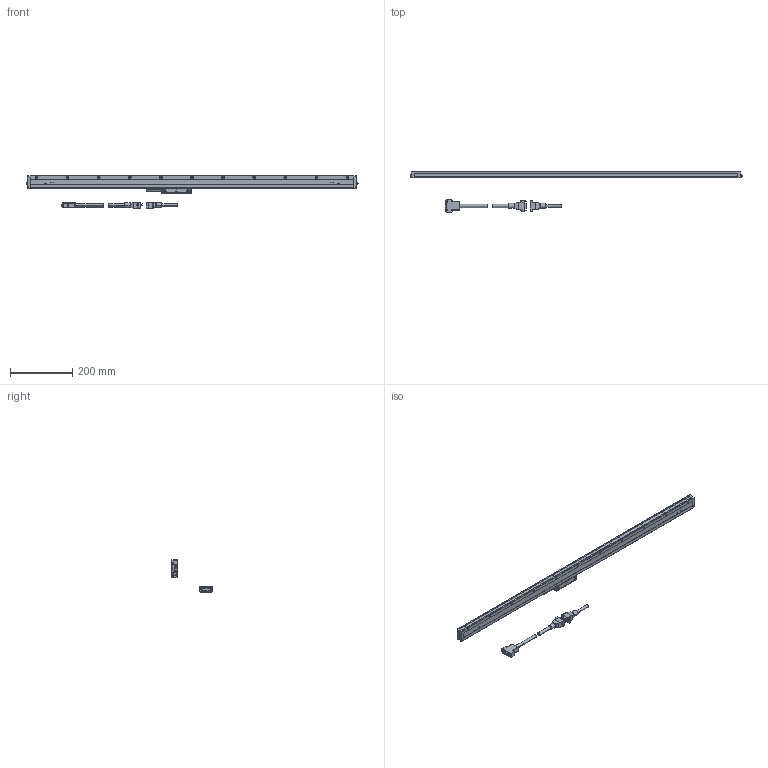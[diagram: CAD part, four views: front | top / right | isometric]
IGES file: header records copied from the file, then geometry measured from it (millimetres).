
Start section: Elysium IGES Interface
Global section: file name: 73H\\Utsu119s\kiyo_cad\data\3D\AT211\HP掲載用_201803\多点固定\AT211-900A.igs; native system: Creo Elements/Direct Modeling 18.1B  29-Sep-2012; preprocessor: Creo Element/Direct IGES_3D V2.2; author: Unknown; organization: Unknown; date: 20180315.101916; units: millimetre
Bounding box: 1067.12 x 130.6 x 105 mm (x, y, z)
Volume: 909270.1 mm3; surface area: 177122.4 mm2
Topology: 5 solids, 5 shells, 1091 faces, 2622 edges, 1548 vertices
Faces by surface type: bspline 1091
